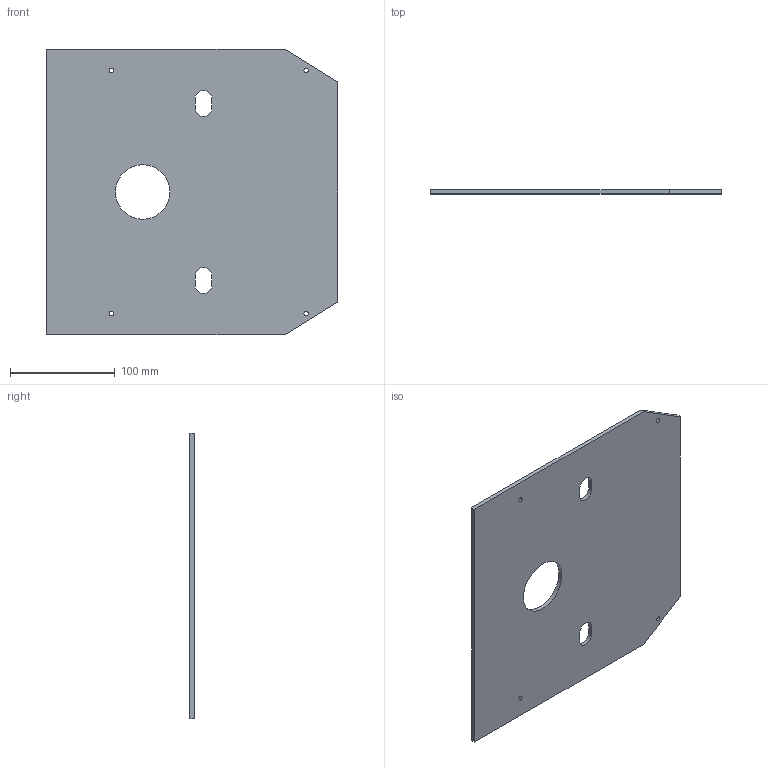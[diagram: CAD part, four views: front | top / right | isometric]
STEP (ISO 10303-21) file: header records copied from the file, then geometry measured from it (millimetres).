
FILE_DESCRIPTION(('Open CASCADE Model'),'2;1');
FILE_NAME('Open CASCADE Shape Model','2026-09-21T16:05:38',('Author'),( 'Open CASCADE'),'Open CASCADE STEP processor 7.8','Open CASCADE 7.8' ,'Unknown');
FILE_SCHEMA(('AUTOMOTIVE_DESIGN { 1 0 10303 214 1 1 1 1 }'));
Length unit declared in the file: millimetre
Products named in the file (1): Open CASCADE STEP translator 7.8 3
Bounding box: 278 x 4 x 272 mm (x, y, z)
Volume: 284765.4 mm3; surface area: 148026.1 mm2
Topology: 1 solids, 1 shells, 23 faces, 63 edges, 42 vertices
Faces by surface type: plane 12, cylinder 11
Full cylindrical faces by diameter (mm): 4.4 x4, 52 x1
Entity records: 1646 total; most frequent: CARTESIAN_POINT 403, DIRECTION 221, LINE 129, VECTOR 129, ORIENTED_EDGE 126, PCURVE 126, DEFINITIONAL_REPRESENTATION 126, EDGE_CURVE 63
